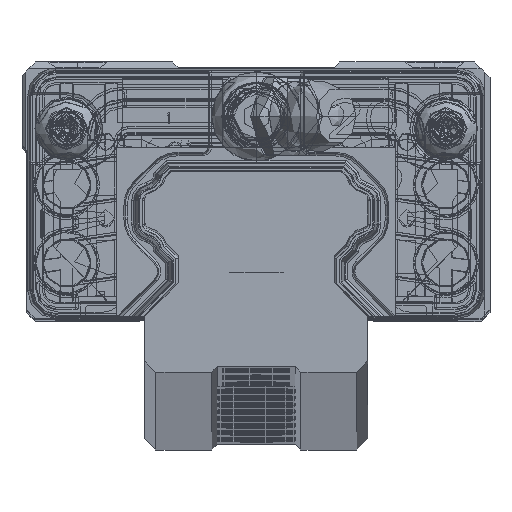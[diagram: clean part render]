
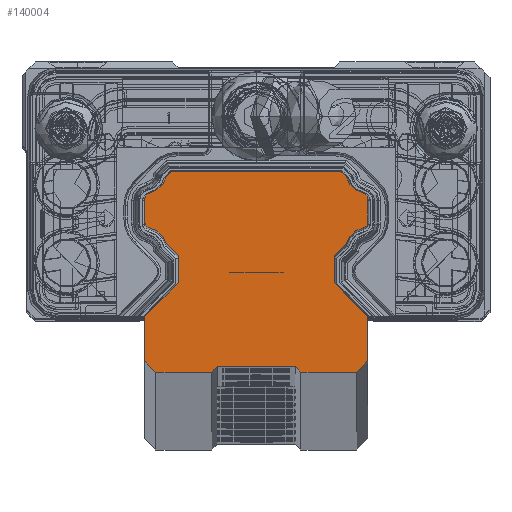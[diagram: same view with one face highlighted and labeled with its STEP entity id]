
A CAD part, top view. The second image highlights one B-rep face of the part: STEP entity #140004.
In plain terms, the highlighted planar face has unit normal (0, 0, 1).
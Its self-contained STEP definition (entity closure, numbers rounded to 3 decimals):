
#129100=DIRECTION('',(0.707,0.707,0.));
#129101=VECTOR('',#129100,0.707);
#129102=CARTESIAN_POINT('',(-4.,-14.5,500.));
#129103=LINE('',#129102,#129101);
#129158=DIRECTION('',(-1.,0.,0.));
#129159=VECTOR('',#129158,15.156);
#129160=CARTESIAN_POINT('',(7.578,3.5,500.));
#129161=LINE('',#129160,#129159);
#129832=DIRECTION('',(-0.707,-0.707,0.));
#129833=VECTOR('',#129832,0.706);
#129834=CARTESIAN_POINT('',(-7.578,3.5,500.));
#129835=LINE('',#129834,#129833);
#130193=DIRECTION('',(0.707,-0.707,0.));
#130194=VECTOR('',#130193,0.707);
#130195=CARTESIAN_POINT('',(3.5,-14.,500.));
#130196=LINE('',#130195,#130194);
#132646=DIRECTION('',(1.,0.,0.));
#132647=VECTOR('',#132646,7.);
#132648=CARTESIAN_POINT('',(-3.5,-14.,500.));
#132649=LINE('',#132648,#132647);
#132820=DIRECTION('',(-0.707,0.707,0.));
#132821=VECTOR('',#132820,1.523);
#132822=CARTESIAN_POINT('',(-7.,-4.079,500.));
#132823=LINE('',#132822,#132821);
#132824=CARTESIAN_POINT('',(-10.011,-3.511,500.));
#132825=DIRECTION('',(0.,0.,1.));
#132826=DIRECTION('',(0.967,0.254,0.));
#132827=AXIS2_PLACEMENT_3D('',#132824,#132825,#132826);
#132829=CARTESIAN_POINT('',(-9.5,-1.064,500.));
#132830=DIRECTION('',(0.,0.,-1.));
#132831=DIRECTION('',(-0.204,-0.979,0.));
#132832=AXIS2_PLACEMENT_3D('',#132829,#132830,#132831);
#132834=DIRECTION('',(0.,1.,0.));
#132835=VECTOR('',#132834,2.128);
#132836=CARTESIAN_POINT('',(-10.,-1.064,500.));
#132837=LINE('',#132836,#132835);
#132838=CARTESIAN_POINT('',(-9.5,1.064,500.));
#132839=DIRECTION('',(0.,0.,-1.));
#132840=DIRECTION('',(-1.,0.,0.));
#132841=AXIS2_PLACEMENT_3D('',#132838,#132839,#132840);
#132843=CARTESIAN_POINT('',(-10.011,3.511,500.));
#132844=DIRECTION('',(0.,0.,1.));
#132845=DIRECTION('',(0.206,-0.979,0.));
#132846=AXIS2_PLACEMENT_3D('',#132843,#132844,#132845);
#132848=CARTESIAN_POINT('',(10.011,3.511,500.));
#132849=DIRECTION('',(0.,0.,1.));
#132850=DIRECTION('',(-0.967,-0.255,0.));
#132851=AXIS2_PLACEMENT_3D('',#132848,#132849,#132850);
#132853=CARTESIAN_POINT('',(9.5,1.064,500.));
#132854=DIRECTION('',(0.,0.,-1.));
#132855=DIRECTION('',(0.204,0.979,0.));
#132856=AXIS2_PLACEMENT_3D('',#132853,#132854,#132855);
#132858=DIRECTION('',(0.,-1.,0.));
#132859=VECTOR('',#132858,2.128);
#132860=CARTESIAN_POINT('',(10.,1.064,500.));
#132861=LINE('',#132860,#132859);
#132862=CARTESIAN_POINT('',(9.5,-1.064,500.));
#132863=DIRECTION('',(0.,0.,-1.));
#132864=DIRECTION('',(1.,0.,0.));
#132865=AXIS2_PLACEMENT_3D('',#132862,#132863,#132864);
#132867=CARTESIAN_POINT('',(10.011,-3.511,500.));
#132868=DIRECTION('',(0.,0.,1.));
#132869=DIRECTION('',(-0.206,0.979,0.));
#132870=AXIS2_PLACEMENT_3D('',#132867,#132868,#132869);
#132872=DIRECTION('',(-0.707,-0.707,0.));
#132873=VECTOR('',#132872,1.523);
#132874=CARTESIAN_POINT('',(8.077,-3.003,500.));
#132875=LINE('',#132874,#132873);
#132876=DIRECTION('',(0.,-1.,0.));
#132877=VECTOR('',#132876,2.421);
#132878=CARTESIAN_POINT('',(7.,-4.079,500.));
#132879=LINE('',#132878,#132877);
#132880=DIRECTION('',(0.707,-0.707,0.));
#132881=VECTOR('',#132880,4.243);
#132882=CARTESIAN_POINT('',(7.,-6.5,500.));
#132883=LINE('',#132882,#132881);
#132884=DIRECTION('',(0.,-1.,0.));
#132885=VECTOR('',#132884,4.);
#132886=CARTESIAN_POINT('',(10.,-9.5,500.));
#132887=LINE('',#132886,#132885);
#132888=DIRECTION('',(-0.707,-0.707,0.));
#132889=VECTOR('',#132888,1.414);
#132890=CARTESIAN_POINT('',(10.,-13.5,500.));
#132891=LINE('',#132890,#132889);
#132892=DIRECTION('',(-1.,0.,0.));
#132893=VECTOR('',#132892,5.);
#132894=CARTESIAN_POINT('',(9.,-14.5,500.));
#132895=LINE('',#132894,#132893);
#132896=DIRECTION('',(-1.,0.,0.));
#132897=VECTOR('',#132896,5.);
#132898=CARTESIAN_POINT('',(-4.,-14.5,500.));
#132899=LINE('',#132898,#132897);
#132900=DIRECTION('',(-0.707,0.707,0.));
#132901=VECTOR('',#132900,1.414);
#132902=CARTESIAN_POINT('',(-9.,-14.5,500.));
#132903=LINE('',#132902,#132901);
#132904=DIRECTION('',(0.,1.,0.));
#132905=VECTOR('',#132904,4.);
#132906=CARTESIAN_POINT('',(-10.,-13.5,500.));
#132907=LINE('',#132906,#132905);
#132908=DIRECTION('',(0.707,0.707,0.));
#132909=VECTOR('',#132908,4.243);
#132910=CARTESIAN_POINT('',(-10.,-9.5,500.));
#132911=LINE('',#132910,#132909);
#132912=DIRECTION('',(0.,1.,0.));
#132913=VECTOR('',#132912,2.421);
#132914=CARTESIAN_POINT('',(-7.,-6.5,500.));
#132915=LINE('',#132914,#132913);
#132916=DIRECTION('',(-0.707,0.707,0.));
#132917=VECTOR('',#132916,0.706);
#132918=CARTESIAN_POINT('',(8.077,3.001,500.));
#132919=LINE('',#132918,#132917);
#133581=CARTESIAN_POINT('',(-7.,-4.079,500.));
#133583=VERTEX_POINT('',#133581);
#133586=CARTESIAN_POINT('',(-8.077,-3.003,500.));
#133587=VERTEX_POINT('',#133586);
#133589=CARTESIAN_POINT('',(-7.,-6.5,500.));
#133591=VERTEX_POINT('',#133589);
#133593=CARTESIAN_POINT('',(-10.,-9.5,500.));
#133595=VERTEX_POINT('',#133593);
#133597=CARTESIAN_POINT('',(-10.,-13.5,500.));
#133599=VERTEX_POINT('',#133597);
#133601=CARTESIAN_POINT('',(-9.,-14.5,500.));
#133603=VERTEX_POINT('',#133601);
#133605=CARTESIAN_POINT('',(-4.,-14.5,500.));
#133607=VERTEX_POINT('',#133605);
#133614=CARTESIAN_POINT('',(-3.5,-14.,500.));
#133615=VERTEX_POINT('',#133614);
#133714=CARTESIAN_POINT('',(3.5,-14.,500.));
#133715=VERTEX_POINT('',#133714);
#133896=CARTESIAN_POINT('',(-7.578,3.5,500.));
#133898=VERTEX_POINT('',#133896);
#133902=CARTESIAN_POINT('',(7.578,3.5,500.));
#133903=VERTEX_POINT('',#133902);
#134297=CARTESIAN_POINT('',(-8.077,3.001,500.));
#134299=VERTEX_POINT('',#134297);
#134301=CARTESIAN_POINT('',(-9.601,1.554,500.));
#134303=VERTEX_POINT('',#134301);
#134304=CARTESIAN_POINT('',(-10.,1.064,500.));
#134306=VERTEX_POINT('',#134304);
#134309=CARTESIAN_POINT('',(-10.,-1.064,500.));
#134311=VERTEX_POINT('',#134309);
#134313=CARTESIAN_POINT('',(-9.602,-1.553,500.));
#134315=VERTEX_POINT('',#134313);
#134340=CARTESIAN_POINT('',(4.,-14.5,500.));
#134341=VERTEX_POINT('',#134340);
#134342=CARTESIAN_POINT('',(8.077,3.001,500.));
#134343=VERTEX_POINT('',#134342);
#134344=CARTESIAN_POINT('',(9.602,1.553,500.));
#134345=VERTEX_POINT('',#134344);
#134346=CARTESIAN_POINT('',(10.,1.064,500.));
#134347=VERTEX_POINT('',#134346);
#134348=CARTESIAN_POINT('',(10.,-1.064,500.));
#134349=VERTEX_POINT('',#134348);
#134350=CARTESIAN_POINT('',(9.6,-1.554,500.));
#134351=VERTEX_POINT('',#134350);
#134352=CARTESIAN_POINT('',(8.077,-3.003,500.));
#134353=VERTEX_POINT('',#134352);
#134354=CARTESIAN_POINT('',(7.,-4.079,500.));
#134355=VERTEX_POINT('',#134354);
#134356=CARTESIAN_POINT('',(7.,-6.5,500.));
#134357=VERTEX_POINT('',#134356);
#134358=CARTESIAN_POINT('',(10.,-9.5,500.));
#134359=VERTEX_POINT('',#134358);
#134360=CARTESIAN_POINT('',(10.,-13.5,500.));
#134361=VERTEX_POINT('',#134360);
#134362=CARTESIAN_POINT('',(9.,-14.5,500.));
#134363=VERTEX_POINT('',#134362);
#139957=CARTESIAN_POINT('',(0.,0.,500.));
#139958=DIRECTION('',(0.,0.,1.));
#139959=DIRECTION('',(1.,0.,0.));
#139960=AXIS2_PLACEMENT_3D('',#139957,#139958,#139959);
#139961=PLANE('',#139960);
#139962=ORIENTED_EDGE('',*,*,#134775,.T.);
#139963=ORIENTED_EDGE('',*,*,#135545,.T.);
#139964=ORIENTED_EDGE('',*,*,#135531,.T.);
#139965=ORIENTED_EDGE('',*,*,#135516,.T.);
#139966=ORIENTED_EDGE('',*,*,#135501,.T.);
#139967=ORIENTED_EDGE('',*,*,#135486,.T.);
#139968=ORIENTED_EDGE('',*,*,#135471,.F.);
#139969=ORIENTED_EDGE('',*,*,#135056,.F.);
#139971=ORIENTED_EDGE('',*,*,#139970,.F.);
#139973=ORIENTED_EDGE('',*,*,#139972,.T.);
#139975=ORIENTED_EDGE('',*,*,#139974,.T.);
#139977=ORIENTED_EDGE('',*,*,#139976,.T.);
#139979=ORIENTED_EDGE('',*,*,#139978,.T.);
#139981=ORIENTED_EDGE('',*,*,#139980,.T.);
#139983=ORIENTED_EDGE('',*,*,#139982,.T.);
#139985=ORIENTED_EDGE('',*,*,#139984,.T.);
#139987=ORIENTED_EDGE('',*,*,#139986,.T.);
#139989=ORIENTED_EDGE('',*,*,#139988,.T.);
#139991=ORIENTED_EDGE('',*,*,#139990,.T.);
#139993=ORIENTED_EDGE('',*,*,#139992,.T.);
#139994=ORIENTED_EDGE('',*,*,#135730,.F.);
#139995=ORIENTED_EDGE('',*,*,#139849,.F.);
#139996=ORIENTED_EDGE('',*,*,#134867,.F.);
#139997=ORIENTED_EDGE('',*,*,#134850,.T.);
#139998=ORIENTED_EDGE('',*,*,#134835,.T.);
#139999=ORIENTED_EDGE('',*,*,#134820,.T.);
#140000=ORIENTED_EDGE('',*,*,#134805,.T.);
#140001=ORIENTED_EDGE('',*,*,#134790,.T.);
#140002=EDGE_LOOP('',(#139962,#139963,#139964,#139965,#139966,#139967,#139968,
#139969,#139971,#139973,#139975,#139977,#139979,#139981,#139983,#139985,#139987,
#139989,#139991,#139993,#139994,#139995,#139996,#139997,#139998,#139999,#140000,
#140001));
#140003=FACE_OUTER_BOUND('',#140002,.F.);
#140004=ADVANCED_FACE('',(#140003),#139961,.T.);
#132828=CIRCLE('',#132827,2.);
#132833=CIRCLE('',#132832,0.5);
#132842=CIRCLE('',#132841,0.5);
#132847=CIRCLE('',#132846,2.);
#132852=CIRCLE('',#132851,2.);
#132857=CIRCLE('',#132856,0.5);
#132866=CIRCLE('',#132865,0.5);
#132871=CIRCLE('',#132870,2.);
#134775=EDGE_CURVE('',#133583,#133587,#132823,.T.);
#134790=EDGE_CURVE('',#133591,#133583,#132915,.T.);
#134805=EDGE_CURVE('',#133595,#133591,#132911,.T.);
#134820=EDGE_CURVE('',#133599,#133595,#132907,.T.);
#134835=EDGE_CURVE('',#133603,#133599,#132903,.T.);
#134850=EDGE_CURVE('',#133607,#133603,#132899,.T.);
#134867=EDGE_CURVE('',#133607,#133615,#129103,.T.);
#135056=EDGE_CURVE('',#133903,#133898,#129161,.T.);
#135471=EDGE_CURVE('',#133898,#134299,#129835,.T.);
#135486=EDGE_CURVE('',#134303,#134299,#132847,.T.);
#135501=EDGE_CURVE('',#134306,#134303,#132842,.T.);
#135516=EDGE_CURVE('',#134311,#134306,#132837,.T.);
#135531=EDGE_CURVE('',#134315,#134311,#132833,.T.);
#135545=EDGE_CURVE('',#133587,#134315,#132828,.T.);
#135730=EDGE_CURVE('',#133715,#134341,#130196,.T.);
#139849=EDGE_CURVE('',#133615,#133715,#132649,.T.);
#139970=EDGE_CURVE('',#134343,#133903,#132919,.T.);
#139972=EDGE_CURVE('',#134343,#134345,#132852,.T.);
#139974=EDGE_CURVE('',#134345,#134347,#132857,.T.);
#139976=EDGE_CURVE('',#134347,#134349,#132861,.T.);
#139978=EDGE_CURVE('',#134349,#134351,#132866,.T.);
#139980=EDGE_CURVE('',#134351,#134353,#132871,.T.);
#139982=EDGE_CURVE('',#134353,#134355,#132875,.T.);
#139984=EDGE_CURVE('',#134355,#134357,#132879,.T.);
#139986=EDGE_CURVE('',#134357,#134359,#132883,.T.);
#139988=EDGE_CURVE('',#134359,#134361,#132887,.T.);
#139990=EDGE_CURVE('',#134361,#134363,#132891,.T.);
#139992=EDGE_CURVE('',#134363,#134341,#132895,.T.);
